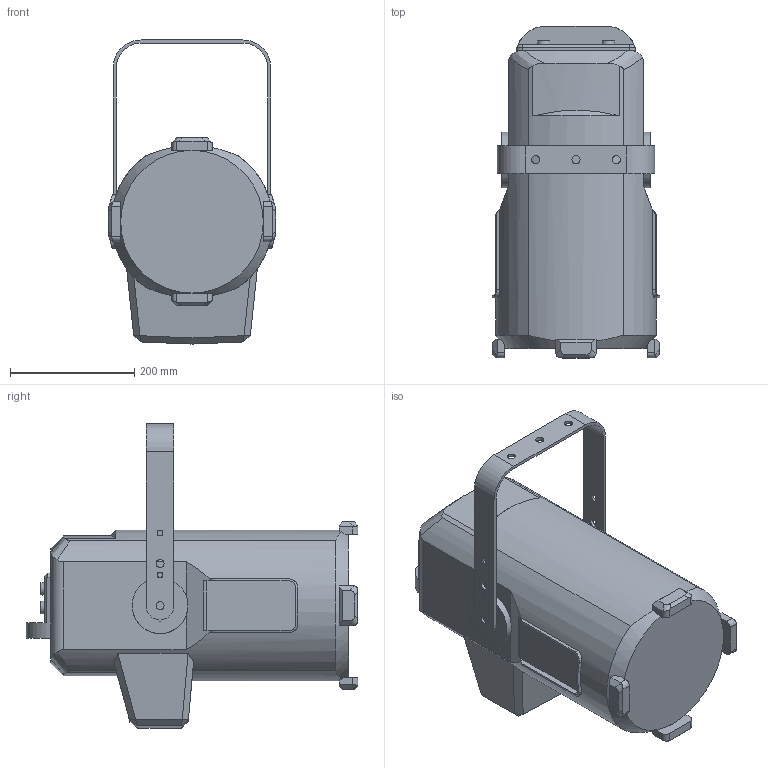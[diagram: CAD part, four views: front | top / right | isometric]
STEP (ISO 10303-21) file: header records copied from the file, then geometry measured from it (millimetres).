
FILE_DESCRIPTION(/* description */ ('Unknown'),/* implementation_level */ '2;1');
FILE_NAME(/* name */ '3D-Robin T15 PC',/* time_stamp */ '2024-03-06T09:53:19+01:00',/* author */ ('Unknown'),/* organization */ ('Unknown'),/* preprocessor_version */ 'ST-DEVELOPER v18.104',/* originating_system */ 'Solid Edge',/* authorisation */ 'Unknown');
FILE_SCHEMA (('AUTOMOTIVE_DESIGN {1 0 10303 214 3 1 1}'));
Length unit declared in the file: millimetre
Products named in the file (3): 3D-Robin T15 PC; 11017865 Z嫛鮀
Assembly tree (2 placements, depth 2):
  3D-Robin T15 PC
    3D-Robin T15 PC
    11017865 Z嫛鮀
Bounding box: 270.3 x 535.05 x 490.33 mm (x, y, z)
Volume: 25666936.6 mm3; surface area: 645230.9 mm2
Topology: 3 solids, 3 shells, 213 faces, 588 edges, 385 vertices
Faces by surface type: plane 125, cylinder 67, cone 11, bspline 10
Full cylindrical faces by diameter (mm): 8 x1, 12.9 x4, 13 x3, 90 x2
Entity records: 7166 total; most frequent: CARTESIAN_POINT 1797, ORIENTED_EDGE 1134, DIRECTION 1035, EDGE_CURVE 567, VERTEX_POINT 378, AXIS2_PLACEMENT_3D 357, LINE 321, VECTOR 321
